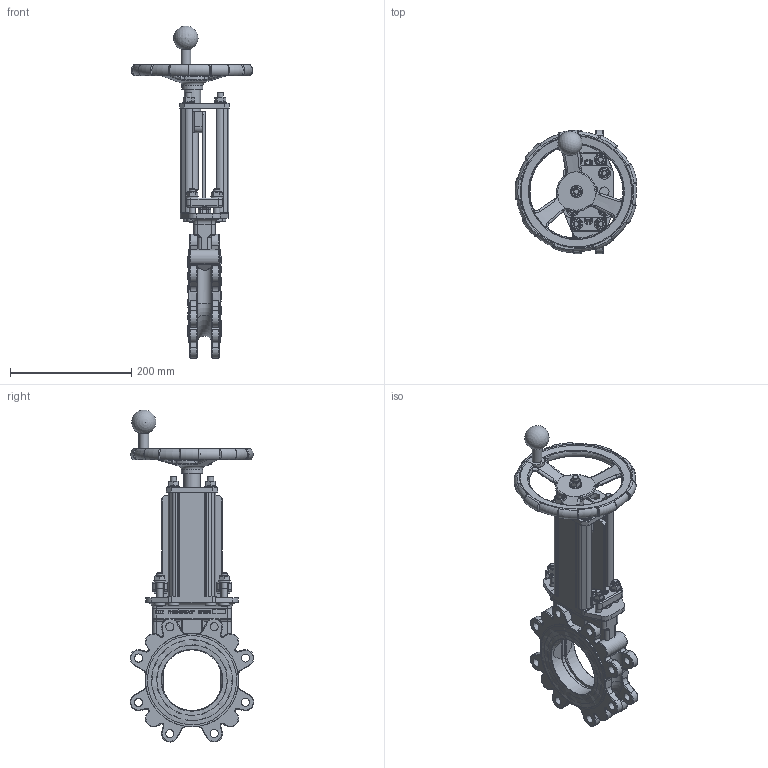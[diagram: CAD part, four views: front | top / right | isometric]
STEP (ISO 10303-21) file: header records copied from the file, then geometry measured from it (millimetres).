
FILE_DESCRIPTION(/* description */ (''),/* implementation_level */ '2;1');
FILE_NAME(/* name */ 'F:\3D Sammanställningar\WB\DN100\WB14E-DN100-ANSI150-HW.stp',/* time_stamp */ '2021-06-30T16:20:36+02:00',/* author */ ('MATZET'),/* organization */ (''),/* preprocessor_version */ 'ST-DEVELOPER v18',/* originating_system */ 'Autodesk Inventor 2020',/* authorisation */ '');
FILE_SCHEMA (('AUTOMOTIVE_DESIGN { 1 0 10303 214 3 1 1 }'));
Length unit declared in the file: millimetre
Products named in the file (1): WB14E-DN100-ANSI-HW_Shrinkwrap_1
Bounding box: 200.8 x 203.52 x 546.61 mm (x, y, z)
Volume: 1799499.9 mm3; surface area: 504636 mm2
Topology: 1 solids, 1 shells, 2084 faces, 5517 edges, 3477 vertices
Faces by surface type: plane 878, cylinder 481, bspline 443, torus 203, cone 62, sphere 17
Full cylindrical faces by diameter (mm): 6 x2, 6.75 x2, 8.376 x4, 8.5 x1, 9 x2, 10 x25, 10.5 x8, 11 x4, 13 x1, 13.386 x16, 15 x1, 15.5 x1, 16 x1, 20 x10, 27 x2, 35 x1, 100 x2, 102 x2, 147 x2, 153 x2, 185 x2
Entity records: 99799 total; most frequent: CARTESIAN_POINT 50183, ORIENTED_EDGE 10946, DIRECTION 9223, EDGE_CURVE 5473, VERTEX_POINT 3477, AXIS2_PLACEMENT_3D 3225, LINE 2773, VECTOR 2773
